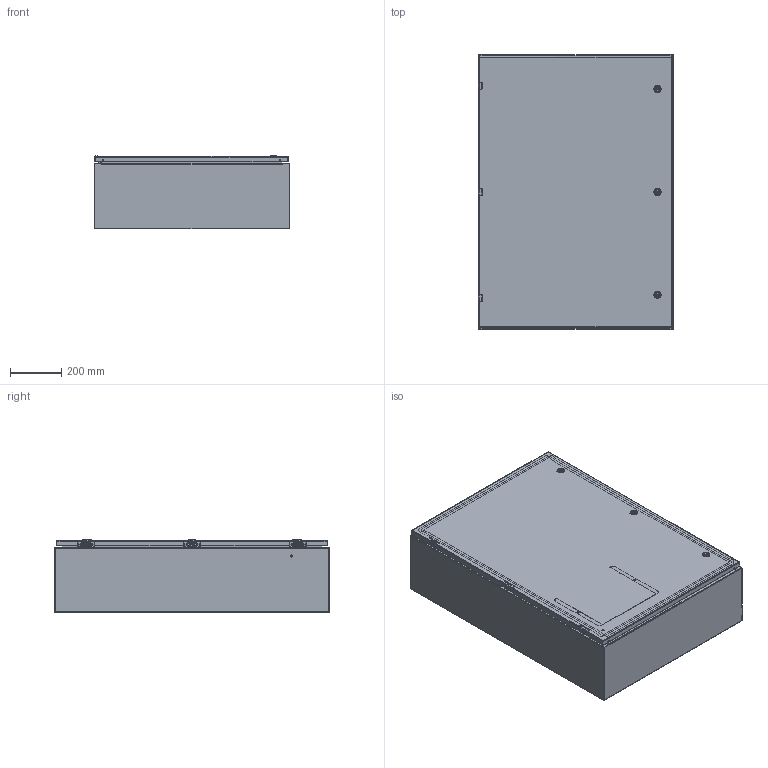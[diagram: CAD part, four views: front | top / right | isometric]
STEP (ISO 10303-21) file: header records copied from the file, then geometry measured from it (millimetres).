
FILE_DESCRIPTION((''),'2;1');
FILE_NAME('MODEL-305_ASM','2022-12-12T16:21:04',('johnh'),('SAGINAW CONTROL & ENGINEERING'),'CREO PARAMETRIC BY PTC INC, 2021284','CREO PARAMETRIC BY PTC INC, 2021284','');
FILE_SCHEMA(('AUTOMOTIVE_DESIGN { 1 0 10303 214 1 1 1 1 }'));
Length unit declared in the file: inch
Products named in the file (28): MODEL-305-BDY; MODEL-305-TP; MODEL-305-BTM; MODEL-305-DR; 100837; 100882; 111267; 100794_SHAFT; 100794_INSERT; 100794_CAM; 100794_NUT; 100794_SCREW; 100794_ASM; MODEL-305-DOOR-GASKET; 126391; 126391_ASM; 126393; 102483; 101226; 101376; 102140; MODEL-305-DOOR-ASSY_ASM; 101653; 122192; SUBPANEL; 100904; SUBPANEL-SUBASSEMBLY_ASM; MODEL-305_ASM
Assembly tree (61 placements, depth 4):
  MODEL-305_ASM
    MODEL-305-BDY
    MODEL-305-TP
    MODEL-305-BTM
    MODEL-305-DOOR-ASSY_ASM
      MODEL-305-DR
      100837  x3
      100882  x2
      111267
      100794_ASM  x3
        100794_SHAFT
        100794_INSERT
        100794_CAM
        100794_NUT
        100794_SCREW
      MODEL-305-DOOR-GASKET
      126391_ASM  x3
        126391
      126393  x3
      102483  x9
      101226  x3
      101376  x3
      102140  x3
    100837
    101653  x6
    122192
    SUBPANEL-SUBASSEMBLY_ASM
      SUBPANEL
      100904  x6
Bounding box: 762 x 1066.8 x 285.13 mm (x, y, z)
Volume: 8331287.2 mm3; surface area: 7444198.1 mm2
Topology: 67 solids, 67 shells, 4077 faces, 10342 edges, 6501 vertices
Faces by surface type: plane 1848, cylinder 1172, bspline 532, torus 295, cone 150, sphere 80
Entity records: 88142 total; most frequent: CARTESIAN_POINT 25516, ORIENTED_EDGE 9090, DIRECTION 8546, PRESENTATION_STYLE_ASSIGNMENT 4742, EDGE_CURVE 4545, STYLED_ITEM 4467, CURVE_STYLE 4383, AXIS2_PLACEMENT_3D 3102
